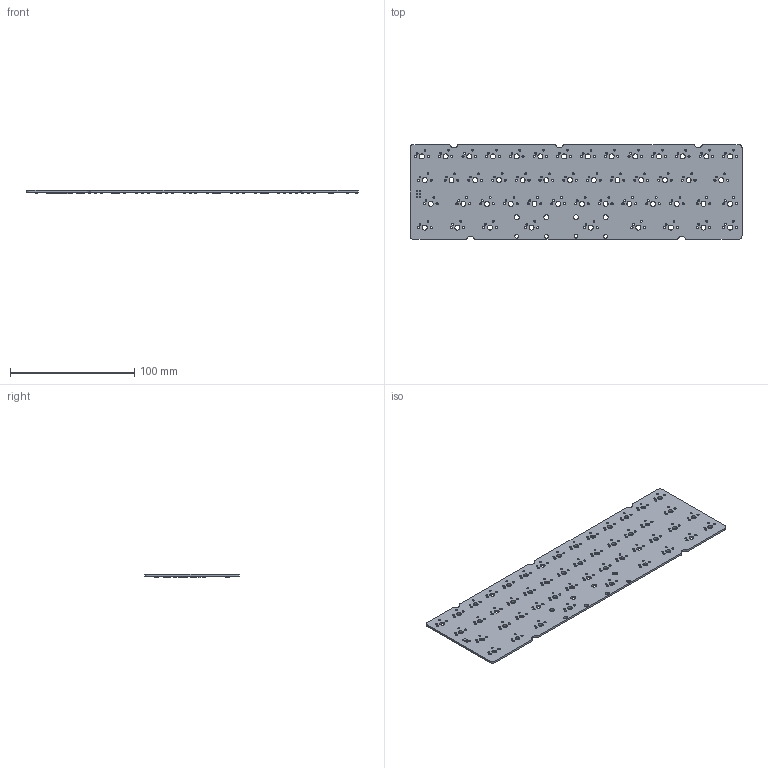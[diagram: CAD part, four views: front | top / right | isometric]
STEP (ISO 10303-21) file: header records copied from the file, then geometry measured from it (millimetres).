
FILE_DESCRIPTION(('KiCad electronic assembly'),'2;1');
FILE_NAME('bakeneko40.step','2021-06-18T10:57:17',('An Author'),( 'A Company'),'Open CASCADE STEP processor 7.5', 'KiCad to STEP converter','Unknown');
FILE_SCHEMA(('AUTOMOTIVE_DESIGN { 1 0 10303 214 1 1 1 1 }'));
Length unit declared in the file: millimetre
Products named in the file (18): Open CASCADE STEP translator 7.5 1; SOT-23-6; SOLID; QFN-32-1EP_5x5mm_P0.5mm_EP3.1x3.1mm; R_0805_2012Metric; Crystal_SMD_3225-4Pin_3.2x2.5mm; SW_SPST_TL3342; Fuse_1206_3216Metric; D_SOD-123; C_0805_2012Metric; COMPOUND
Assembly tree (74 placements, depth 3):
  Open CASCADE STEP translator 7.5 1
    SOT-23-6
      SOLID
    QFN-32-1EP_5x5mm_P0.5mm_EP3.1x3.1mm
      SOLID
    R_0805_2012Metric  x4
      SOLID
    Crystal_SMD_3225-4Pin_3.2x2.5mm
      SOLID
    SW_SPST_TL3342
      SOLID
    Fuse_1206_3216Metric
      SOLID
    D_SOD-123  x49
      SOLID
    C_0805_2012Metric  x7
      SOLID
    COMPOUND
Bounding box: 266.7 x 76.2 x 3.2 mm (x, y, z)
Volume: 30963.8 mm3; surface area: 43484.8 mm2
Topology: 66 solids, 67 shells, 4449 faces, 10858 edges, 6617 vertices
Faces by surface type: plane 2260, bspline 1320, cylinder 868, torus 1
Full cylindrical faces by diameter (mm): 0.4 x1, 1 x6, 1.47 x98, 1.75 x98, 2 x1, 3.048 x4, 3.988 x53
Entity records: 76096 total; most frequent: CARTESIAN_POINT 14609, DIRECTION 10536, LINE 6354, VECTOR 6354, ORIENTED_EDGE 5468, PCURVE 5468, DEFINITIONAL_REPRESENTATION 5468, EDGE_CURVE 2734
